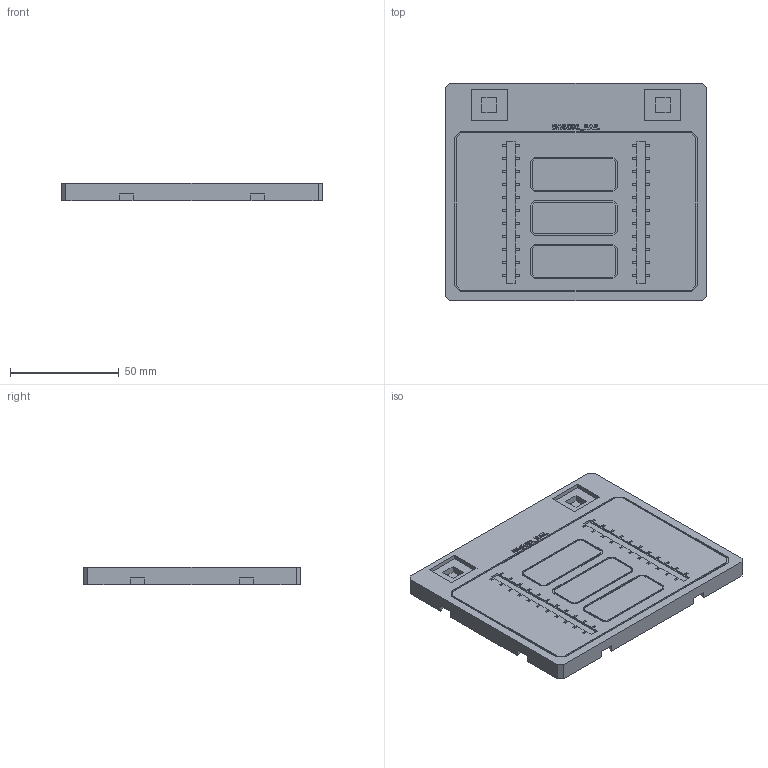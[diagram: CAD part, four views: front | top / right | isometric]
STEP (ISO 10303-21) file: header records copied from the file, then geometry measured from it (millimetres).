
FILE_DESCRIPTION(('Open CASCADE Model'),'2;1');
FILE_NAME('Open CASCADE Shape Model','2026-10-02T13:48:48',('Author'),( 'Open CASCADE'),'Open CASCADE STEP processor 7.8','Open CASCADE 7.8' ,'Unknown');
FILE_SCHEMA(('AUTOMOTIVE_DESIGN { 1 0 10303 214 1 1 1 1 }'));
Length unit declared in the file: millimetre
Products named in the file (1): Open CASCADE STEP translator 7.8 3
Bounding box: 120 x 100 x 8 mm (x, y, z)
Volume: 91453.9 mm3; surface area: 29790.3 mm2
Topology: 1 solids, 1 shells, 504 faces, 1413 edges, 942 vertices
Faces by surface type: plane 436, extrusion 68
Entity records: 33440 total; most frequent: CARTESIAN_POINT 7318, DIRECTION 3957, VECTOR 3083, LINE 3015, ORIENTED_EDGE 2826, PCURVE 2826, DEFINITIONAL_REPRESENTATION 2826, EDGE_CURVE 1413
